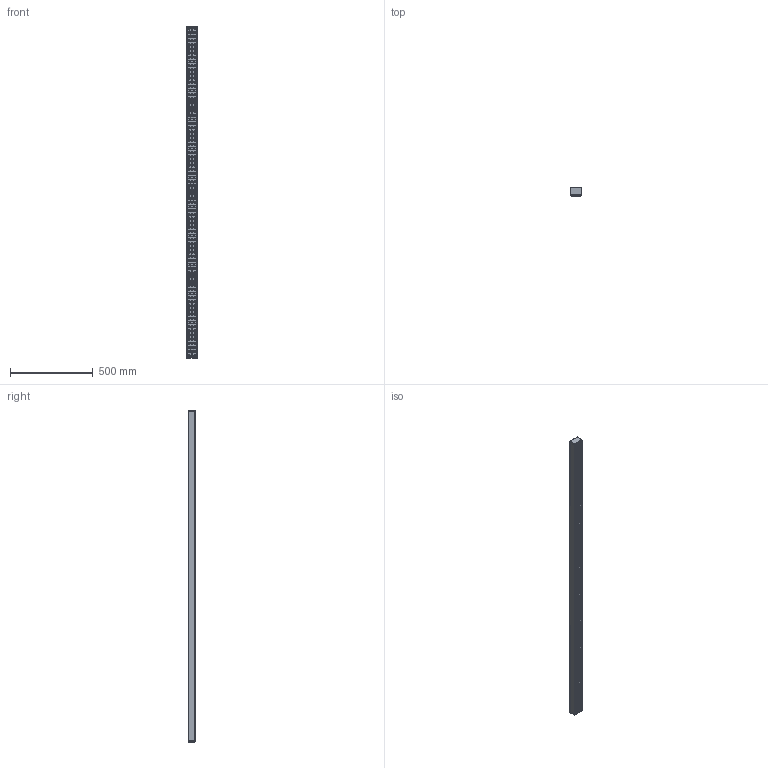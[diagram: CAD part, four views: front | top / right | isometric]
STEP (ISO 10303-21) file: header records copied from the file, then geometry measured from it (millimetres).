
FILE_DESCRIPTION(/* description */ (''),/* implementation_level */ '2;1');
FILE_NAME(/* name */ 'BINGO_LUMI_SYSTEM_GDO_BL9.stp',/* time_stamp */ '2025-10-01T13:56:39+02:00',/* author */ ('gian.noche'),/* organization */ (''),/* preprocessor_version */ 'ST-DEVELOPER v19.2',/* originating_system */ 'Autodesk Inventor 2023',/* authorisation */ '');
FILE_SCHEMA (('AUTOMOTIVE_DESIGN { 1 0 10303 214 3 1 1 }'));
Length unit declared in the file: millimetre
Products named in the file (1): IDP_27_BINGO_LUMI_SYSTEM_2000_Semplifica_1
Bounding box: 65 x 47.82 x 2001 mm (x, y, z)
Volume: 830070.8 mm3; surface area: 695599.5 mm2
Topology: 1 solids, 1 shells, 1253 faces, 2771 edges, 1772 vertices
Faces by surface type: plane 469, cylinder 416, torus 256, bspline 112
Full cylindrical faces by diameter (mm): 15 x240
Entity records: 43014 total; most frequent: CARTESIAN_POINT 13933, DIRECTION 6889, ORIENTED_EDGE 5546, AXIS2_PLACEMENT_3D 3012, EDGE_CURVE 2773, VERTEX_POINT 1772, EDGE_LOOP 1505, CIRCLE 1502
